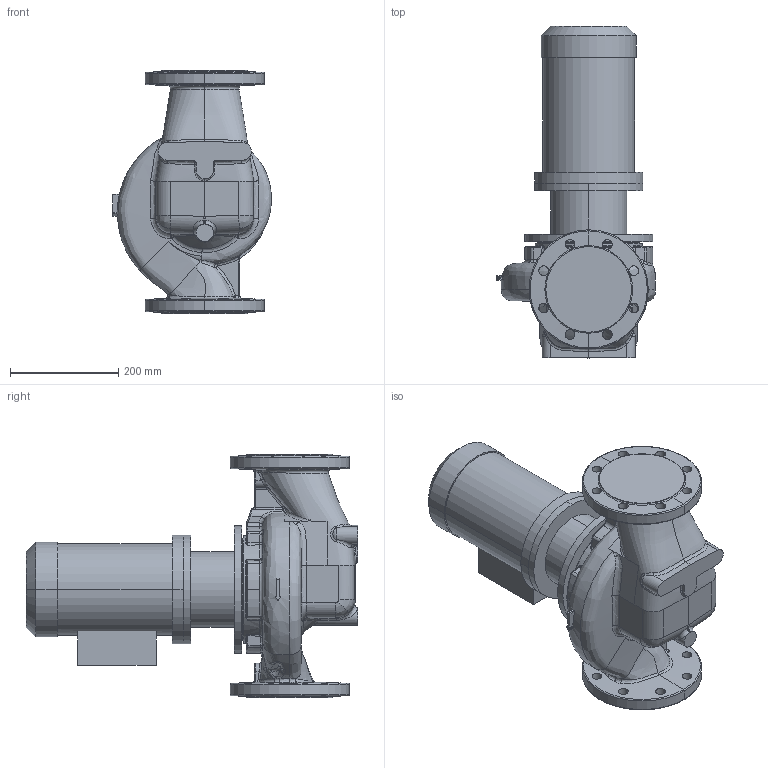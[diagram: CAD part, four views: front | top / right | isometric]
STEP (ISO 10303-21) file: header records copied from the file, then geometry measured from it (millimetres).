
FILE_DESCRIPTION (( 'STEP AP214' ), '1' );
FILE_NAME ('KRL 100-160-4-1,5.STEP', '2026-04-06T07:49:58', ( '' ), ( '' ), 'SwSTEP 2.0', 'SolidWorks 2016', '' );
FILE_SCHEMA (( 'AUTOMOTIVE_DESIGN' ));
Length unit declared in the file: millimetre
Products named in the file (1): KRL 100-160-4-1,5
Bounding box: 293.08 x 612.3 x 450 mm (x, y, z)
Volume: 22564878.9 mm3; surface area: 989301.1 mm2
Topology: 4 solids, 4 shells, 554 faces, 1355 edges, 813 vertices
Faces by surface type: bspline 255, cylinder 138, plane 85, cone 30, torus 28, sphere 18
Entity records: 55041 total; most frequent: CARTESIAN_POINT 38076, ORIENTED_EDGE 2686, DIRECTION 1647, EDGE_CURVE 1343, VERTEX_POINT 813, AXIS2_PLACEMENT_3D 702, B_SPLINE_CURVE_WITH_KNOTS 639, EDGE_LOOP 602
